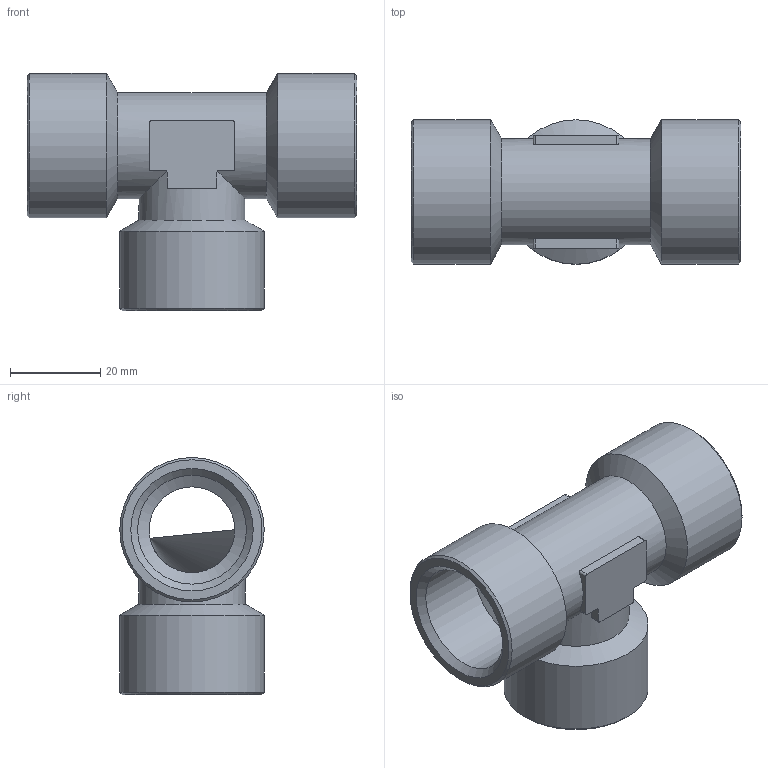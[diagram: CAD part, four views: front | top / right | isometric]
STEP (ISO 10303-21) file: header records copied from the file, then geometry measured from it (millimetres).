
FILE_DESCRIPTION(/* description */ (''),/* implementation_level */ '2;1');
FILE_NAME(/* name */ '40007_111_G3-4_27.09.16',/* time_stamp */ '2016-09-27T11:21:48+02:00',/* author */ (''),/* organization */ (''),/* preprocessor_version */ 'ST-DEVELOPER v16.5',/* originating_system */ 'HiCAD 2016 2101.0 Build 254',/* authorisation */ '');
FILE_SCHEMA (('AUTOMOTIVE_DESIGN { 1 0 10303 214 1 1 1 1 }'));
Length unit declared in the file: millimetre
Products named in the file (2): Root; 40007
Assembly tree (1 placements, depth 2):
  Root
    40007
Bounding box: 73 x 32 x 52.5 mm (x, y, z)
Volume: 26531.9 mm3; surface area: 17034.6 mm2
Topology: 1 solids, 1 shells, 59 faces, 157 edges, 99 vertices
Faces by surface type: cylinder 26, plane 21, cone 12
Full cylindrical faces by diameter (mm): 19 x2, 23.5 x2, 24.117 x3, 32 x3
Entity records: 5618 total; most frequent: CARTESIAN_POINT 2977, DIRECTION 280, PRESENTATION_STYLE_ASSIGNMENT 257, COLOUR_RGB 257, DRAUGHTING_PRE_DEFINED_CURVE_FONT 256, CURVE_STYLE 256, OVER_RIDING_STYLED_ITEM 256, ORIENTED_EDGE 256
